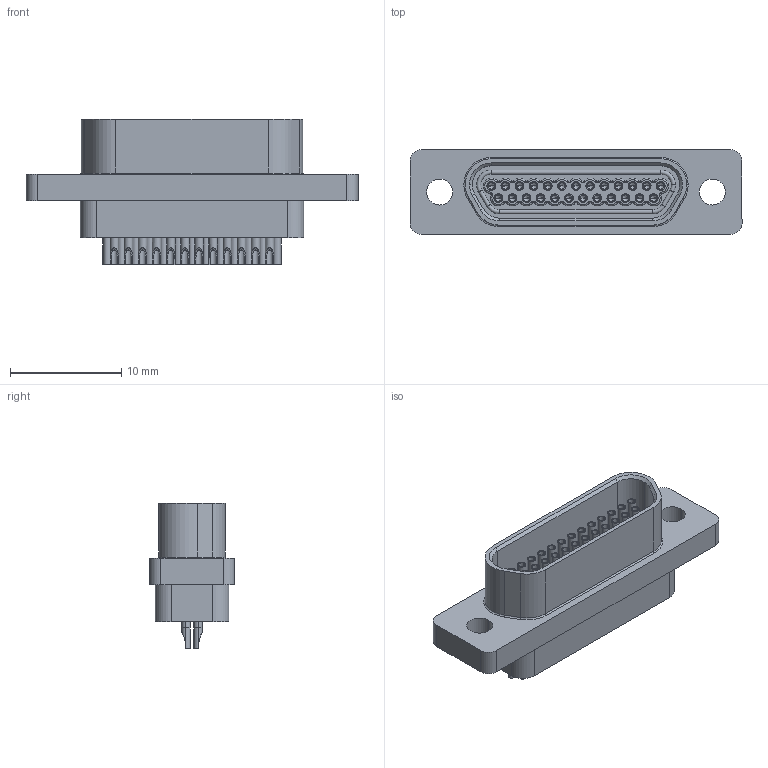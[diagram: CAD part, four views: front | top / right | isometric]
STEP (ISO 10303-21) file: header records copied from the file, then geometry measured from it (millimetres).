
FILE_DESCRIPTION (( 'STEP AP214' ), '1' );
FILE_NAME ('A99000-025 REV C.STEP', '2013-08-08T20:57:30', ( '' ), ( '' ), 'SwSTEP 2.0', 'SolidWorks 2012', '' );
FILE_SCHEMA (( 'AUTOMOTIVE_DESIGN' ));
Length unit declared in the file: inch
Products named in the file (1): A99000-025 REV B
Bounding box: 29.84 x 7.63 x 13.06 mm (x, y, z)
Volume: 1129.5 mm3; surface area: 2395.4 mm2
Topology: 1 solids, 26 shells, 1078 faces, 2464 edges, 1481 vertices
Faces by surface type: cylinder 519, plane 293, torus 113, cone 105, bspline 48
Entity records: 33432 total; most frequent: CARTESIAN_POINT 9006, DIRECTION 5440, ORIENTED_EDGE 4728, EDGE_CURVE 2364, AXIS2_PLACEMENT_3D 2191, VERTEX_POINT 1481, EDGE_LOOP 1275, CIRCLE 1160
